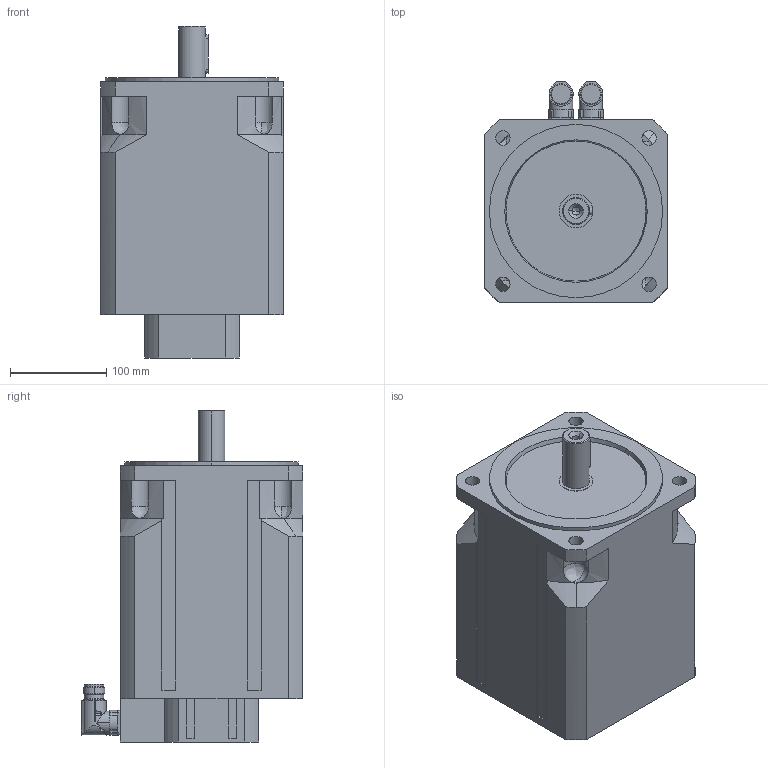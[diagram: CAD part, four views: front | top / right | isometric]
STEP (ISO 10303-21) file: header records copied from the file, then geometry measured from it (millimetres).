
FILE_DESCRIPTION(('STEP AP203'),'2;1');
FILE_NAME('MT7-4000.stp','2006-08-28T20:28:40',(''),(''),'2005.2.102','THINKDESIGN','');
FILE_SCHEMA(('CONFIG_CONTROL_DESIGN'));
Length unit declared in the file: millimetre
Bounding box: 190 x 230.5 x 345 mm (x, y, z)
Volume: 9068588.8 mm3; surface area: 307556.6 mm2
Topology: 3 solids, 3 shells, 275 faces, 749 edges, 481 vertices
Faces by surface type: cylinder 120, plane 107, bspline 48
Full cylindrical faces by diameter (mm): 20 x2
Entity records: 9842 total; most frequent: CARTESIAN_POINT 2891, ORIENTED_EDGE 1478, DIRECTION 1427, EDGE_CURVE 739, AXIS2_PLACEMENT_3D 539, VERTEX_POINT 481, VECTOR 349, LINE 349
